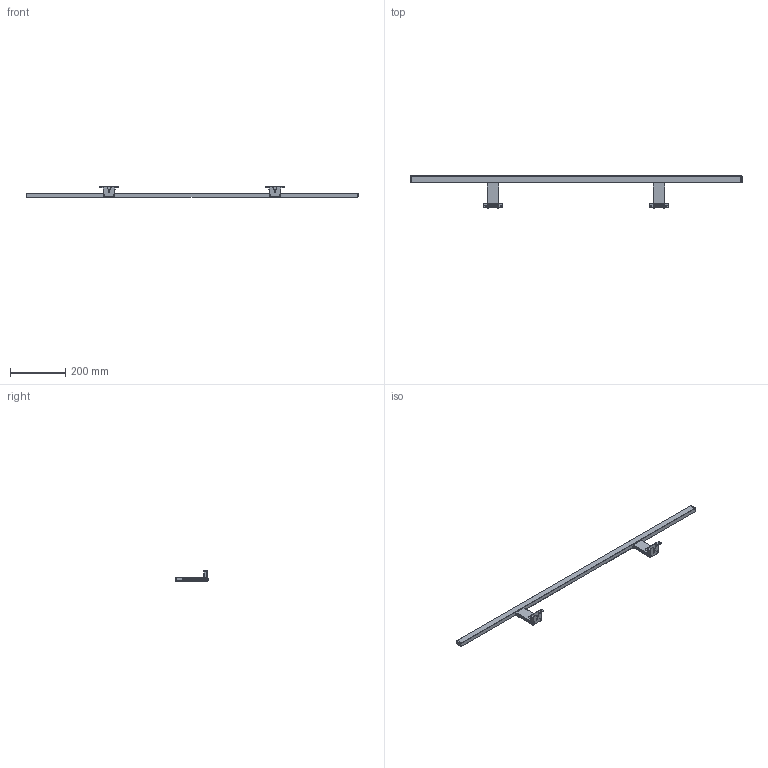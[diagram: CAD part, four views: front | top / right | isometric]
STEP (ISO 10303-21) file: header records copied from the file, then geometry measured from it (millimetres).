
FILE_DESCRIPTION (( 'STEP AP203' ), '1' );
FILE_NAME ('2000650_Lilium Emotopn 1200.STEP', '2021-01-21T12:08:10', ( '' ), ( '' ), 'SwSTEP 2.0', 'SolidWorks 2018', '' );
FILE_SCHEMA (( 'CONFIG_CONTROL_DESIGN' ));
Length unit declared in the file: millimetre
Products named in the file (1): 2000650_Lilium Emotopn 1200
Bounding box: 1202 x 116.5 x 37.05 mm (x, y, z)
Volume: 475171.1 mm3; surface area: 153731.8 mm2
Topology: 1 solids, 1 shells, 556 faces, 1484 edges, 928 vertices
Faces by surface type: plane 274, cylinder 192, bspline 48, cone 34, torus 8
Entity records: 20951 total; most frequent: CARTESIAN_POINT 7671, ORIENTED_EDGE 2968, DIRECTION 2450, EDGE_CURVE 1484, VERTEX_POINT 928, LINE 856, VECTOR 856, AXIS2_PLACEMENT_3D 797
